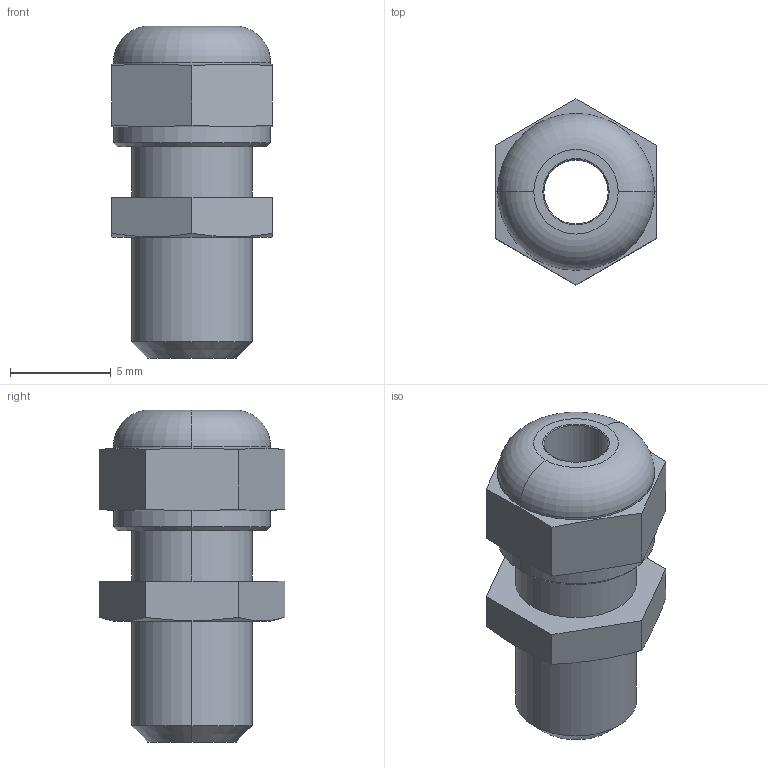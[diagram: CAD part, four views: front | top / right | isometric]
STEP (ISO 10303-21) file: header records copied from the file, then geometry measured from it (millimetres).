
FILE_DESCRIPTION (( 'STEP AP203' ), '1' );
FILE_NAME ('111005.STEP', '2005-10-10T10:39:30', ( ' ' ), ( '' ), 'SwSTEP 2.0', 'SolidWorks 2005143', '' );
FILE_SCHEMA (( 'CONFIG_CONTROL_DESIGN' ));
Length unit declared in the file: millimetre
Products named in the file (1): 111005
Bounding box: 8 x 9.24 x 16.5 mm (x, y, z)
Volume: 506.8 mm3; surface area: 652.6 mm2
Topology: 1 solids, 1 shells, 78 faces, 198 edges, 128 vertices
Faces by surface type: plane 54, cone 10, cylinder 10, torus 4
Entity records: 2441 total; most frequent: CARTESIAN_POINT 493, ORIENTED_EDGE 396, DIRECTION 366, EDGE_CURVE 198, VECTOR 140, LINE 140, VERTEX_POINT 128, AXIS2_PLACEMENT_3D 113
